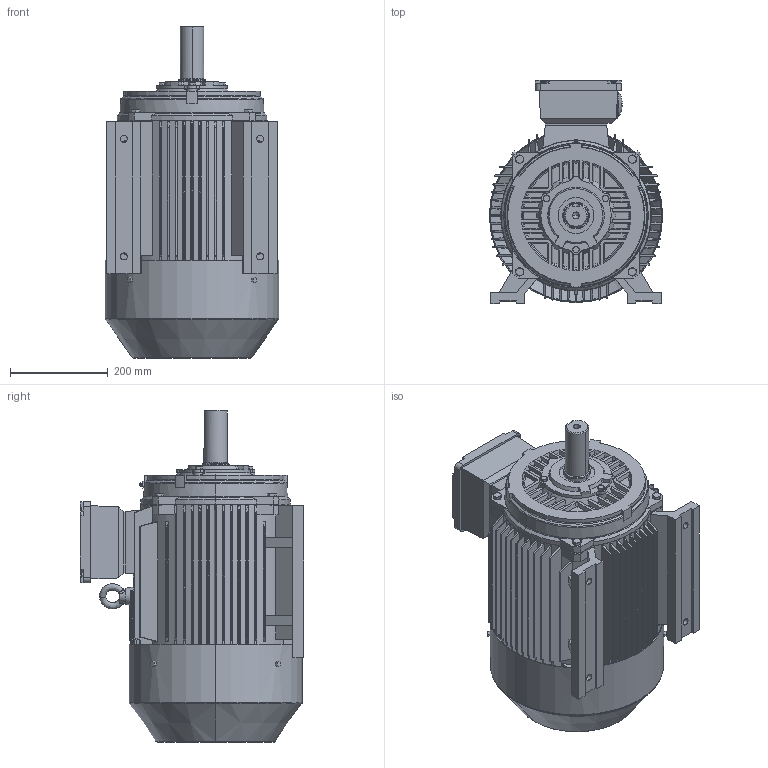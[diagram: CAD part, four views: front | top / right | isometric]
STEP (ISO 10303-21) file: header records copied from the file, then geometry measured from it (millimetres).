
FILE_DESCRIPTION (( 'STEP AP203' ), '1' );
FILE_NAME ('TE3-180M-4 B3上2018.STEP', '2019-11-19T03:18:04', ( '微软用户' ), ( '微软中国' ), 'SwSTEP 2.0', 'SolidWorks 2012', '' );
FILE_SCHEMA (( 'CONFIG_CONTROL_DESIGN' ));
Length unit declared in the file: millimetre
Products named in the file (14): TE3-180M-4 B3奻2018; 蚐戚; hexagon head bolts gb_GB_FASTENER_BOLT_SB A M8X40-N; hexagon head bolts-full thread gb_GB_FASTENER_BOLT_STBAB A M10X20-N; 5EJ.354.484GX160~180P24諉盄碟; hexagon head bolts-full thread gb_GB_FASTENER_BOLT_STBAB A M6X12-N; 8EJ.353.10053GX160~180P24諉盄碟裔; 8EJ.354.593Y2-160~180P24諉盄碟釱; eyebolts gb_GB_FASTENER_SCREWS_FRS M12-N; YX3-180 粣ㄗ粣扥ㄘ; YX3-180-4,6,8粣創俋裔; YX3-180 瑞欶; Y2-180-4,6,8粣扥傷傷裔; Y2-180M 001儂釱
Assembly tree (22 placements, depth 3):
  TE3-180M-4 B3奻2018
    Y2-180M 001儂釱
    Y2-180-4,6,8粣扥傷傷裔
    YX3-180 瑞欶
    YX3-180-4,6,8粣創俋裔
    YX3-180 粣ㄗ粣扥ㄘ
    eyebolts gb_GB_FASTENER_SCREWS_FRS M12-N
    5EJ.354.484GX160~180P24諉盄碟  x2
      8EJ.354.593Y2-160~180P24諉盄碟釱
      8EJ.353.10053GX160~180P24諉盄碟裔
      hexagon head bolts-full thread gb_GB_FASTENER_BOLT_STBAB A M6X12-N
    hexagon head bolts-full thread gb_GB_FASTENER_BOLT_STBAB A M10X20-N  x4
    hexagon head bolts gb_GB_FASTENER_BOLT_SB A M8X40-N  x3
    蚐戚
Bounding box: 355 x 457 x 680 mm (x, y, z)
Volume: 33546785.2 mm3; surface area: 2625899.9 mm2
Topology: 27 solids, 29 shells, 3460 faces, 9013 edges, 5914 vertices
Faces by surface type: plane 1756, cylinder 1213, cone 359, torus 84, bspline 42, sphere 6
Entity records: 101629 total; most frequent: CARTESIAN_POINT 24016, ORIENTED_EDGE 15932, DIRECTION 15852, EDGE_CURVE 7966, AXIS2_PLACEMENT_3D 5656, VERTEX_POINT 5261, VECTOR 4540, LINE 4540
